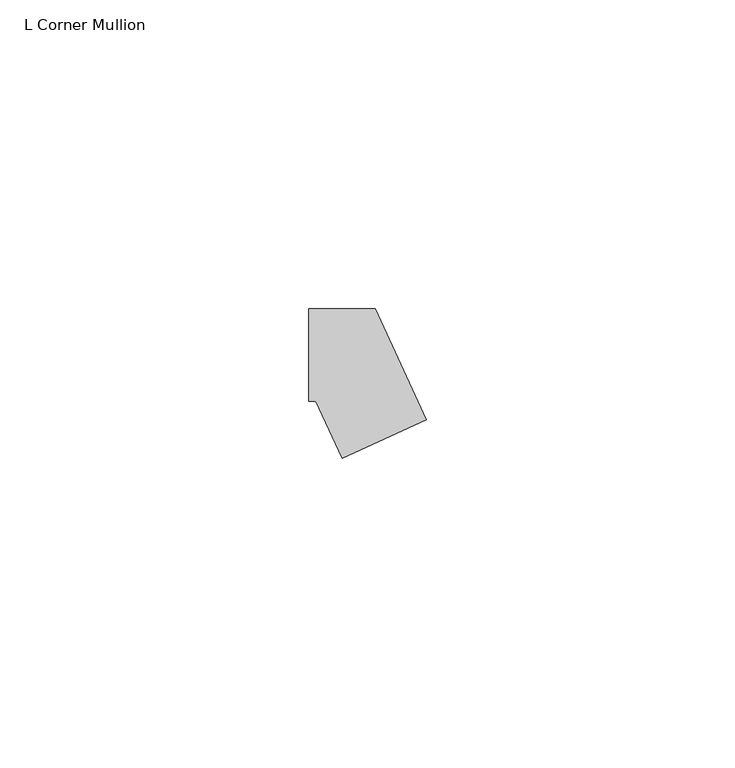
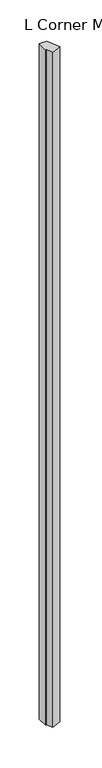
"""IFC4 building model written with IfcOpenShell, lengths in millimetres: member geometry, L Corner Mullion : ARQ_HERR_15X6mm."""

from ifc_helpers import new_model, si_unit, frame, origin, place, context, project, spatial, polyline, outline, extrude, source, transform, mapped, element, save


def l_corner_mullion_c65f2da1(model_context):
    return source(origin(), model_context, "Body", "SweptSolid", [
        extrude(outline(polyline([(-0.5775282, -16.7605627), (-4.8156946, -7.5), (-6.0, -7.5), (-6.0, 7.5), (4.8156946, 7.5), (13.0619332, -10.5183601), (-0.5775282, -16.7605627)])), frame((0.0, 0.0, -1044.2499815), z_axis=(0.0, 0.0, 1.0), x_axis=(1.0, 0.0, 0.0)), (0.0, 0.0, 1.0), 1044.2499815),
    ])


if __name__ == "__main__":
    model = new_model("IFC4")
    model_context = context("Model", 3, world=origin())
    ifc_project = project(units=[si_unit("LENGTHUNIT", "METRE", prefix="MILLI")], contexts=[model_context])
    site = spatial("IfcSite", under=ifc_project)
    building = spatial("IfcBuilding", under=site)
    placement = place(None, origin())
    l_corner_mullion_shape = l_corner_mullion_c65f2da1(model_context)
    element("IfcMember", 1, ObjectType="L Corner Mullion : ARQ_HERR_15X6mm", at=placement, inside=building, context=model_context, shape_type="MappedRepresentation", body=[
        mapped(l_corner_mullion_shape, transform((0.0, 0.0, 0.0), x_axis=(1.0, 0.0, 0.0), y_axis=(0.0, 1.0, 0.0), z_axis=(0.0, 0.0, 1.0))),
    ])
    save(model, "model.ifc")
